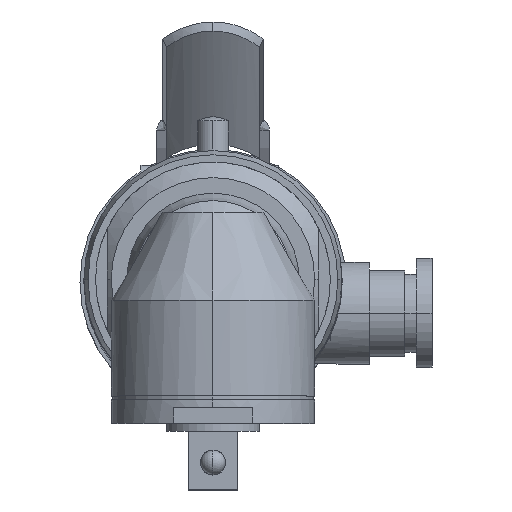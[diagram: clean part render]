
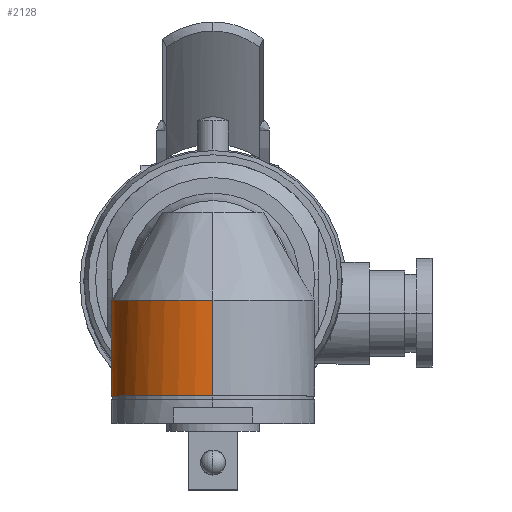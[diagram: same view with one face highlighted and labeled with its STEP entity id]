
A CAD part, top view. The second image highlights one B-rep face of the part: STEP entity #2128.
In plain terms, the highlighted cylindrical face has radius 13 mm (diameter 26 mm), a partial arc.
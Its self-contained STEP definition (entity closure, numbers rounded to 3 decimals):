
#2055 = VERTEX_POINT ( 'NONE', #9572 ) ;
#2057 = EDGE_CURVE ( 'NONE', #2058, #2055, #9571, .T. ) ;
#2058 = VERTEX_POINT ( 'NONE', #9567 ) ;
#2063 = VERTEX_POINT ( 'NONE', #9558 ) ;
#2106 = EDGE_CURVE ( 'NONE', #2063, #2132, #9684, .T. ) ;
#2107 = ORIENTED_EDGE ( 'NONE', *, *, #2108, .F. ) ;
#2108 = EDGE_CURVE ( 'NONE', #2058, #2132, #9680, .T. ) ;
#2109 = ORIENTED_EDGE ( 'NONE', *, *, #2057, .T. ) ;
#2110 = ORIENTED_EDGE ( 'NONE', *, *, #2122, .T. ) ;
#2122 = EDGE_CURVE ( 'NONE', #2055, #2138, #9787, .T. ) ;
#2128 = ADVANCED_FACE ( 'NONE', ( #9815 ), #9814, .T. ) ;
#2129 = EDGE_LOOP ( 'NONE', ( #2130, #2131, #2107, #2109, #2110 ) ) ;
#2130 = ORIENTED_EDGE ( 'NONE', *, *, #2137, .F. ) ;
#2131 = ORIENTED_EDGE ( 'NONE', *, *, #2106, .T. ) ;
#2132 = VERTEX_POINT ( 'NONE', #9812 ) ;
#2137 = EDGE_CURVE ( 'NONE', #2063, #2138, #9801, .T. ) ;
#2138 = VERTEX_POINT ( 'NONE', #9797 ) ;
#9558 = CARTESIAN_POINT ( 'NONE',  ( 0., -2.758, 13. ) ) ;
#9567 = CARTESIAN_POINT ( 'NONE',  ( 0., -10., -13. ) ) ;
#9568 = DIRECTION ( 'NONE',  ( 0., -1., 0. ) ) ;
#9569 = VECTOR ( 'NONE', #9568, 1000. ) ;
#9570 = CARTESIAN_POINT ( 'NONE',  ( 0., 8.5, -13. ) ) ;
#9571 = LINE ( 'NONE', #9570, #9569 ) ;
#9572 = CARTESIAN_POINT ( 'NONE',  ( 0., -15., -13. ) ) ;
#9680 = B_SPLINE_CURVE_WITH_KNOTS ( 'NONE', 3,
 ( #9741, #9740, #9739, #9738, #9737, #9736, #9735, #9734, #9733, #9732, #9730, #9729, #9728, #9727, #9726, #9725, #9724, #9723, #9722, #9720, #9719, #9718, #9717, #9716 ),
 .UNSPECIFIED., .F., .F.,
 ( 4, 2, 2, 2, 2, 2, 2, 2, 2, 2, 2, 4 ),
 ( 0.033, 0.034, 0.035, 0.035, 0.036, 0.038, 0.04, 0.041, 0.043, 0.045, 0.046, 0.046 ),
 .UNSPECIFIED. ) ;
#9681 = DIRECTION ( 'NONE',  ( 0., 0., -1. ) ) ;
#9682 = DIRECTION ( 'NONE',  ( 0., -1., 0. ) ) ;
#9683 = AXIS2_PLACEMENT_3D ( 'NONE', #9688, #9682, #9681 ) ;
#9684 = CIRCLE ( 'NONE', #9683, 13. ) ;
#9688 = CARTESIAN_POINT ( 'NONE',  ( 0., -2.758, 0. ) ) ;
#9716 = CARTESIAN_POINT ( 'NONE',  ( -9.612, -2.758, -8.753 ) ) ;
#9717 = CARTESIAN_POINT ( 'NONE',  ( -9.537, -3.021, -8.836 ) ) ;
#9718 = CARTESIAN_POINT ( 'NONE',  ( -9.45, -3.281, -8.928 ) ) ;
#9719 = CARTESIAN_POINT ( 'NONE',  ( -9.26, -3.785, -9.125 ) ) ;
#9720 = CARTESIAN_POINT ( 'NONE',  ( -9.156, -4.029, -9.23 ) ) ;
#9722 = CARTESIAN_POINT ( 'NONE',  ( -8.82, -4.741, -9.555 ) ) ;
#9723 = CARTESIAN_POINT ( 'NONE',  ( -8.564, -5.189, -9.788 ) ) ;
#9724 = CARTESIAN_POINT ( 'NONE',  ( -7.984, -6.043, -10.266 ) ) ;
#9725 = CARTESIAN_POINT ( 'NONE',  ( -7.659, -6.45, -10.513 ) ) ;
#9726 = CARTESIAN_POINT ( 'NONE',  ( -6.951, -7.207, -10.994 ) ) ;
#9727 = CARTESIAN_POINT ( 'NONE',  ( -6.569, -7.558, -11.228 ) ) ;
#9728 = CARTESIAN_POINT ( 'NONE',  ( -5.741, -8.204, -11.673 ) ) ;
#9729 = CARTESIAN_POINT ( 'NONE',  ( -5.293, -8.502, -11.885 ) ) ;
#9730 = CARTESIAN_POINT ( 'NONE',  ( -4.349, -9.021, -12.261 ) ) ;
#9732 = CARTESIAN_POINT ( 'NONE',  ( -3.853, -9.245, -12.428 ) ) ;
#9733 = CARTESIAN_POINT ( 'NONE',  ( -3.065, -9.523, -12.636 ) ) ;
#9734 = CARTESIAN_POINT ( 'NONE',  ( -2.796, -9.605, -12.699 ) ) ;
#9735 = CARTESIAN_POINT ( 'NONE',  ( -2.254, -9.747, -12.806 ) ) ;
#9736 = CARTESIAN_POINT ( 'NONE',  ( -1.98, -9.806, -12.851 ) ) ;
#9737 = CARTESIAN_POINT ( 'NONE',  ( -1.424, -9.902, -12.925 ) ) ;
#9738 = CARTESIAN_POINT ( 'NONE',  ( -1.143, -9.939, -12.953 ) ) ;
#9739 = CARTESIAN_POINT ( 'NONE',  ( -0.574, -9.988, -12.99 ) ) ;
#9740 = CARTESIAN_POINT ( 'NONE',  ( -0.285, -10., -13. ) ) ;
#9741 = CARTESIAN_POINT ( 'NONE',  ( 0., -10., -13. ) ) ;
#9783 = DIRECTION ( 'NONE',  ( 0., 0., 1. ) ) ;
#9784 = DIRECTION ( 'NONE',  ( 0., 1., 0. ) ) ;
#9785 = CARTESIAN_POINT ( 'NONE',  ( 0., -15., 0. ) ) ;
#9786 = AXIS2_PLACEMENT_3D ( 'NONE', #9785, #9784, #9783 ) ;
#9787 = CIRCLE ( 'NONE', #9786, 13. ) ;
#9797 = CARTESIAN_POINT ( 'NONE',  ( 0., -15., 13. ) ) ;
#9798 = DIRECTION ( 'NONE',  ( 0., -1., 0. ) ) ;
#9799 = VECTOR ( 'NONE', #9798, 1000. ) ;
#9800 = CARTESIAN_POINT ( 'NONE',  ( 0., 8.5, 13. ) ) ;
#9801 = LINE ( 'NONE', #9800, #9799 ) ;
#9808 = DIRECTION ( 'NONE',  ( 0., 0., -1. ) ) ;
#9809 = DIRECTION ( 'NONE',  ( 0., -1., 0. ) ) ;
#9810 = CARTESIAN_POINT ( 'NONE',  ( 0., 8.5, 0. ) ) ;
#9811 = AXIS2_PLACEMENT_3D ( 'NONE', #9810, #9809, #9808 ) ;
#9812 = CARTESIAN_POINT ( 'NONE',  ( -9.612, -2.758, -8.753 ) ) ;
#9814 = CYLINDRICAL_SURFACE ( 'NONE', #9811, 13. ) ;
#9815 = FACE_OUTER_BOUND ( 'NONE', #2129, .T. ) ;
